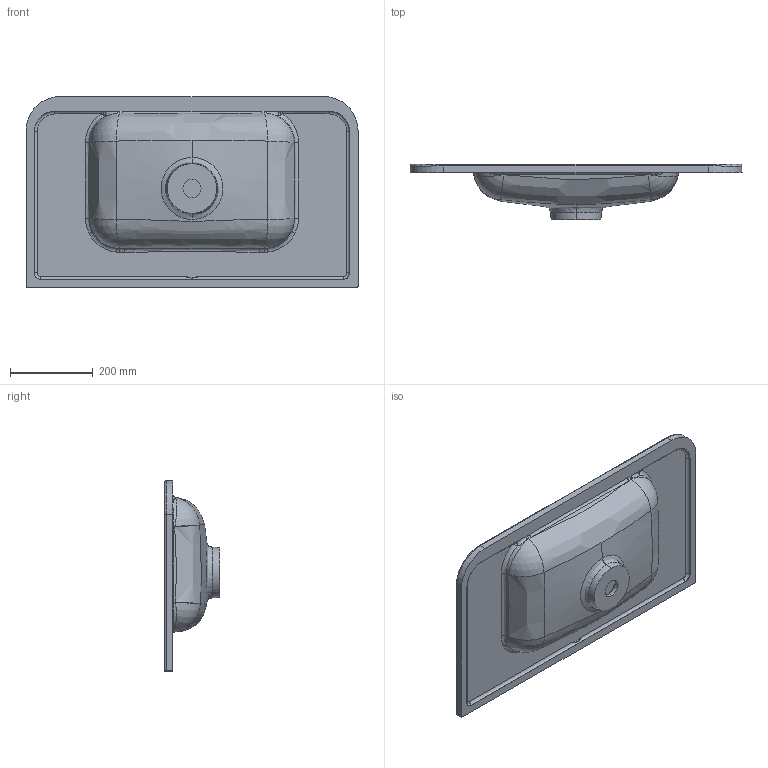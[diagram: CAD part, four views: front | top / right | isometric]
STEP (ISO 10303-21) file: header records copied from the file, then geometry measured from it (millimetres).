
FILE_DESCRIPTION (( 'STEP AP203' ), '1' );
FILE_NAME ('K7115081.stp', '2026-04-13T12:41:22', ( '' ), ( '' ), 'SwSTEP 2.0', 'SolidWorks 2022', '' );
FILE_SCHEMA (( 'CONFIG_CONTROL_DESIGN' ));
Length unit declared in the file: millimetre
Products named in the file (1): K7115081
Bounding box: 802 x 133 x 461 mm (x, y, z)
Volume: 6333170.5 mm3; surface area: 942861.5 mm2
Topology: 2 solids, 2 shells, 156 faces, 350 edges, 198 vertices
Faces by surface type: bspline 39, cylinder 36, plane 26, cone 22, torus 20, sphere 13
Entity records: 8168 total; most frequent: CARTESIAN_POINT 4934, ORIENTED_EDGE 686, DIRECTION 638, EDGE_CURVE 343, AXIS2_PLACEMENT_3D 268, VERTEX_POINT 196, EDGE_LOOP 163, ADVANCED_FACE 156
